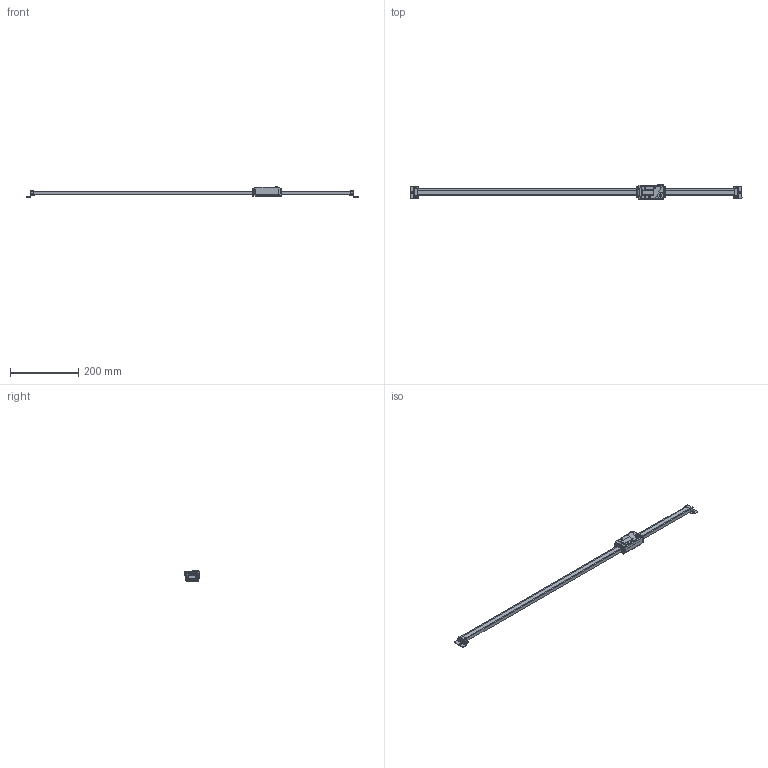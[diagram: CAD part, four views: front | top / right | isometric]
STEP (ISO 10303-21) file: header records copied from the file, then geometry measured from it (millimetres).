
FILE_DESCRIPTION(('Creo Elements/Direct Modeling STEP Export'),'2;1');
FILE_NAME('572-466_SD-80E.stp','2019-10-11T15:41:50',(''),(''),'Creo Elements/Direct Modeling STEP processor for AP214 (Solid Model)','Creo Elements/Direct Modeling 18.1I 13-Aug-2016 (C) Parametric Technology GmbH','');
FILE_SCHEMA(('AUTOMOTIVE_DESIGN { 1 0 10303 214 1 1 1 1 }'));
Length unit declared in the file: millimetre
Products named in the file (5): Slider; Beam; Holder.2; Holder.1; 572-466_SD-80E
Assembly tree (4 placements, depth 2):
  572-466_SD-80E
    Holder.1
    Holder.2
    Beam
    Slider
Bounding box: 974 x 43.1 x 30.02 mm (x, y, z)
Volume: 259289.2 mm3; surface area: 90613.8 mm2
Topology: 4 solids, 5 shells, 625 faces, 1649 edges, 1065 vertices
Faces by surface type: plane 343, cylinder 190, bspline 50, torus 20, cone 16, sphere 6
Entity records: 26169 total; most frequent: CARTESIAN_POINT 10818, ORIENTED_EDGE 3294, DIRECTION 2736, EDGE_CURVE 1647, VERTEX_POINT 1065, VECTOR 992, LINE 992, AXIS2_PLACEMENT_3D 872
